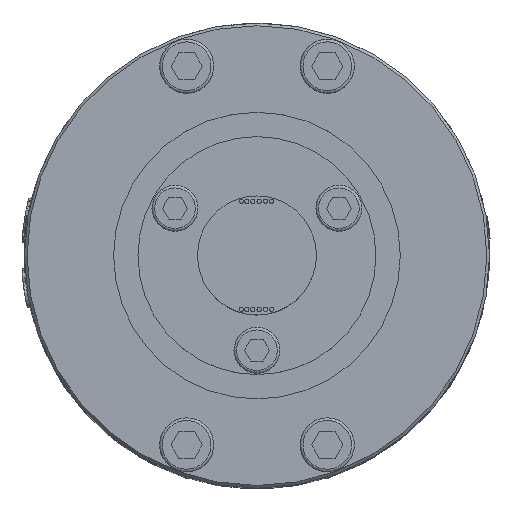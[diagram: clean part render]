
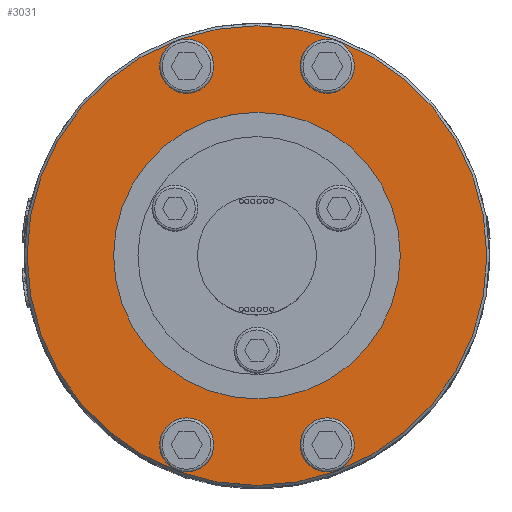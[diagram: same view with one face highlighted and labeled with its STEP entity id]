
A CAD part, top view. The second image highlights one B-rep face of the part: STEP entity #3031.
In plain terms, the highlighted planar face has unit normal (0, 0, 1).
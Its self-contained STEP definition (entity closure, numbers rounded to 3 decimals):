
#557=FACE_BOUND('',#6317,.T.);
#558=FACE_BOUND('',#6318,.T.);
#559=FACE_BOUND('',#6319,.T.);
#560=FACE_BOUND('',#6320,.T.);
#561=FACE_BOUND('',#6321,.T.);
#562=FACE_BOUND('',#6322,.T.);
#806=CIRCLE('',#25485,26.5);
#809=CIRCLE('',#25497,5.);
#812=CIRCLE('',#25510,5.);
#815=CIRCLE('',#25523,5.);
#818=CIRCLE('',#25536,5.);
#819=CIRCLE('',#25539,42.5);
#3031=ADVANCED_FACE('',(#557,#558,#559,#560,#561,#562),#3526,.T.);
#3526=PLANE('',#25540);
#6317=EDGE_LOOP('',(#15215));
#6318=EDGE_LOOP('',(#15216));
#6319=EDGE_LOOP('',(#15217));
#6320=EDGE_LOOP('',(#15218));
#6321=EDGE_LOOP('',(#15219));
#6322=EDGE_LOOP('',(#15220));
#15215=ORIENTED_EDGE('',*,*,#21150,.T.);
#15216=ORIENTED_EDGE('',*,*,#21171,.F.);
#15217=ORIENTED_EDGE('',*,*,#21192,.F.);
#15218=ORIENTED_EDGE('',*,*,#21213,.F.);
#15219=ORIENTED_EDGE('',*,*,#21234,.F.);
#15220=ORIENTED_EDGE('',*,*,#21235,.T.);
#17622=VERTEX_POINT('',#51584);
#17637=VERTEX_POINT('',#51629);
#17652=VERTEX_POINT('',#51675);
#17667=VERTEX_POINT('',#51721);
#17682=VERTEX_POINT('',#51767);
#17683=VERTEX_POINT('',#51771);
#21150=EDGE_CURVE('',#17622,#17622,#806,.T.);
#21171=EDGE_CURVE('',#17637,#17637,#809,.T.);
#21192=EDGE_CURVE('',#17652,#17652,#812,.T.);
#21213=EDGE_CURVE('',#17667,#17667,#815,.T.);
#21234=EDGE_CURVE('',#17682,#17682,#818,.T.);
#21235=EDGE_CURVE('',#17683,#17683,#819,.T.);
#25485=AXIS2_PLACEMENT_3D('',#51583,#28381,#28382);
#25497=AXIS2_PLACEMENT_3D('',#51628,#28423,#28424);
#25510=AXIS2_PLACEMENT_3D('',#51674,#28467,#28468);
#25523=AXIS2_PLACEMENT_3D('',#51720,#28511,#28512);
#25536=AXIS2_PLACEMENT_3D('',#51766,#28555,#28556);
#25539=AXIS2_PLACEMENT_3D('',#51770,#28561,#28562);
#25540=AXIS2_PLACEMENT_3D('',#51772,#28563,#28564);
#28381=DIRECTION('',(0.,0.,-1.));
#28382=DIRECTION('',(1.,0.,0.));
#28423=DIRECTION('',(0.,0.,1.));
#28424=DIRECTION('',(-1.,0.,0.));
#28467=DIRECTION('',(0.,0.,1.));
#28468=DIRECTION('',(-1.,0.,0.));
#28511=DIRECTION('',(0.,0.,1.));
#28512=DIRECTION('',(-1.,0.,0.));
#28555=DIRECTION('',(0.,0.,1.));
#28556=DIRECTION('',(-1.,0.,0.));
#28561=DIRECTION('',(0.,0.,1.));
#28562=DIRECTION('',(1.,0.,0.));
#28563=DIRECTION('',(0.,0.,1.));
#28564=DIRECTION('',(1.,0.,0.));
#51583=CARTESIAN_POINT('',(0.,0.,111.));
#51584=CARTESIAN_POINT('',(26.5,0.,111.));
#51628=CARTESIAN_POINT('',(13.,35.,111.));
#51629=CARTESIAN_POINT('',(8.,35.,111.));
#51674=CARTESIAN_POINT('',(-13.,35.,111.));
#51675=CARTESIAN_POINT('',(-18.,35.,111.));
#51720=CARTESIAN_POINT('',(-13.,-35.,111.));
#51721=CARTESIAN_POINT('',(-18.,-35.,111.));
#51766=CARTESIAN_POINT('',(13.,-35.,111.));
#51767=CARTESIAN_POINT('',(8.,-35.,111.));
#51770=CARTESIAN_POINT('',(0.,0.,111.));
#51771=CARTESIAN_POINT('',(42.5,0.,111.));
#51772=CARTESIAN_POINT('',(0.,0.,111.));
